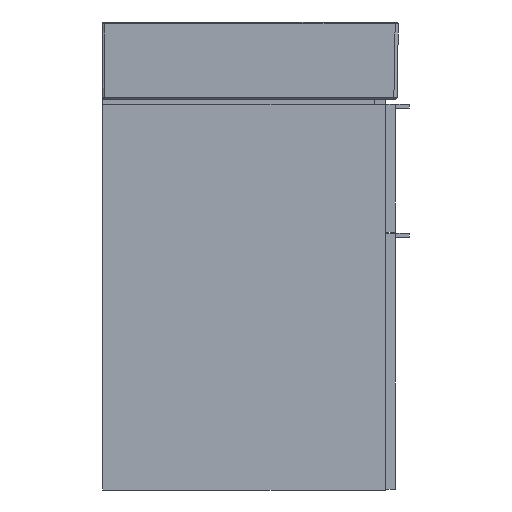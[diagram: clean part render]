
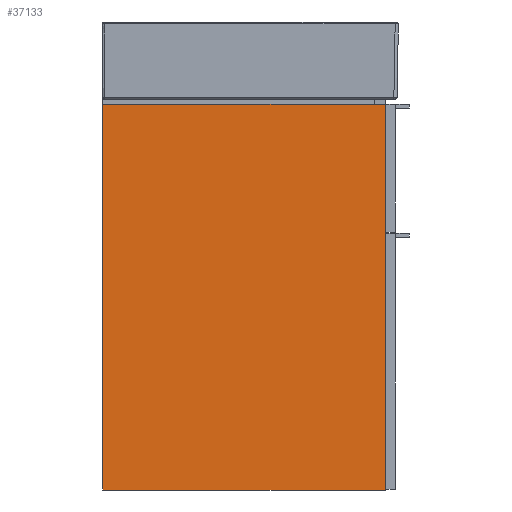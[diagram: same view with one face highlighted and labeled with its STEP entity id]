
A CAD part, left-side view. The second image highlights one B-rep face of the part: STEP entity #37133.
In plain terms, the highlighted planar face has unit normal (-1, 0, 0).
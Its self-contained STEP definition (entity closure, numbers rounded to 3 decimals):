
#3524=PLANE('',#41704);
#5276=LINE('',#127651,#8469);
#5280=LINE('',#127659,#8473);
#5283=LINE('',#127665,#8476);
#5286=LINE('',#127670,#8479);
#8469=VECTOR('',#47330,600.);
#8473=VECTOR('',#47336,439.5);
#8476=VECTOR('',#47341,600.);
#8479=VECTOR('',#47346,439.5);
#11406=FACE_OUTER_BOUND('',#13174,.T.);
#13174=EDGE_LOOP('',(#30596,#30597,#30598,#30599));
#19233=VERTEX_POINT('',#127649);
#19234=VERTEX_POINT('',#127650);
#19237=VERTEX_POINT('',#127658);
#19239=VERTEX_POINT('',#127664);
#24443=EDGE_CURVE('',#19233,#19234,#5276,.T.);
#24447=EDGE_CURVE('',#19234,#19237,#5280,.T.);
#24450=EDGE_CURVE('',#19237,#19239,#5283,.T.);
#24453=EDGE_CURVE('',#19239,#19233,#5286,.T.);
#30596=ORIENTED_EDGE('',*,*,#24443,.T.);
#30597=ORIENTED_EDGE('',*,*,#24447,.T.);
#30598=ORIENTED_EDGE('',*,*,#24450,.T.);
#30599=ORIENTED_EDGE('',*,*,#24453,.T.);
#37133=ADVANCED_FACE('',(#11406),#3524,.T.);
#41704=AXIS2_PLACEMENT_3D('',#127673,#47350,#47351);
#47330=DIRECTION('',(0.,0.,1.));
#47336=DIRECTION('',(0.,1.,0.));
#47341=DIRECTION('',(0.,0.,-1.));
#47346=DIRECTION('',(0.,-1.,0.));
#47350=DIRECTION('center_axis',(-1.,0.,0.));
#47351=DIRECTION('ref_axis',(0.,0.,1.));
#127649=CARTESIAN_POINT('',(-219.,-1511.933,1025.176));
#127650=CARTESIAN_POINT('',(-219.,-1511.933,1625.176));
#127651=CARTESIAN_POINT('',(-219.,-1511.933,1025.176));
#127658=CARTESIAN_POINT('',(-219.,-1072.433,1625.176));
#127659=CARTESIAN_POINT('',(-219.,-1511.933,1625.176));
#127664=CARTESIAN_POINT('',(-219.,-1072.433,1025.176));
#127665=CARTESIAN_POINT('',(-219.,-1072.433,1625.176));
#127670=CARTESIAN_POINT('',(-219.,-1072.433,1025.176));
#127673=CARTESIAN_POINT('Origin',(-219.,-1292.183,1325.176));
